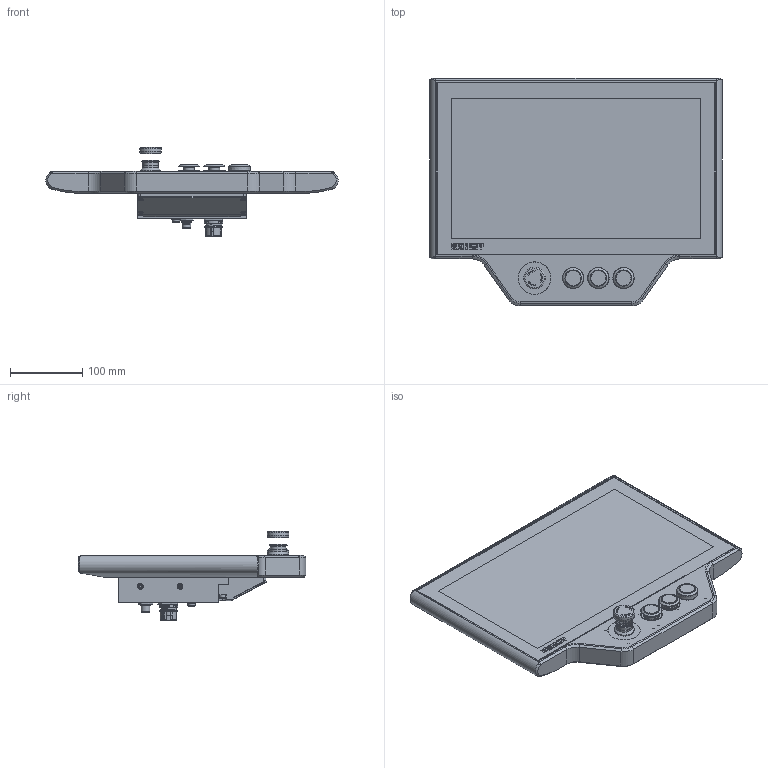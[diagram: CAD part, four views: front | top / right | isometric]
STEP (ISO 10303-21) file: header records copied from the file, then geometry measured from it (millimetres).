
FILE_DESCRIPTION(/* description */ ('-'),/* implementation_level */ '2;1');
FILE_NAME(/* name */ '.stp',/* time_stamp */ '2026-07-13T14:19:27+02:00',/* author */ ('-'),/* organization */ ('(c) Beckhoff Automation GmbH & Co. KG, 33415 Location'),/* preprocessor_version */ 'ST-DEVELOPER v20.1',/* originating_system */ 'Autodesk Inventor 2026',/* authorisation */ '-');
FILE_SCHEMA (('AUTOMOTIVE_DESIGN { 1 0 10303 214 3 1 1 }'));
Products named in the file (1): 0000013823_CP3916-0010_G05x_M338
Bounding box: 405.78 x 316.1 x 124.13 mm (x, y, z)
Volume: 4289343.6 mm3; surface area: 371337.6 mm2
Topology: 6 solids, 46 shells, 2730 faces, 6790 edges, 4358 vertices
Faces by surface type: plane 1135, cylinder 873, bspline 456, torus 142, cone 103, sphere 21
Full cylindrical faces by diameter (mm): 1 x4, 1.2 x4, 2.459 x15, 3 x3, 3.2 x2, 3.242 x3, 3.4 x6, 3.8 x1, 4 x1, 4.134 x6, 4.25 x3, 4.917 x4, 5 x6, 5.2 x2, 5.5 x16, 5.7 x2, 7 x2, 8 x2, 8.3 x1, 8.5 x6, 8.8 x4, 9 x4, 10 x3, 10.5 x1, 11.92 x1, 12 x2, 15 x3, 16.469 x1, 17.4 x1, 17.7 x1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
Entity records: 108673 total; most frequent: CARTESIAN_POINT 41997, ORIENTED_EDGE 13528, DIRECTION 12959, EDGE_CURVE 6764, AXIS2_PLACEMENT_3D 4789, VERTEX_POINT 4357, LINE 3381, VECTOR 3381
